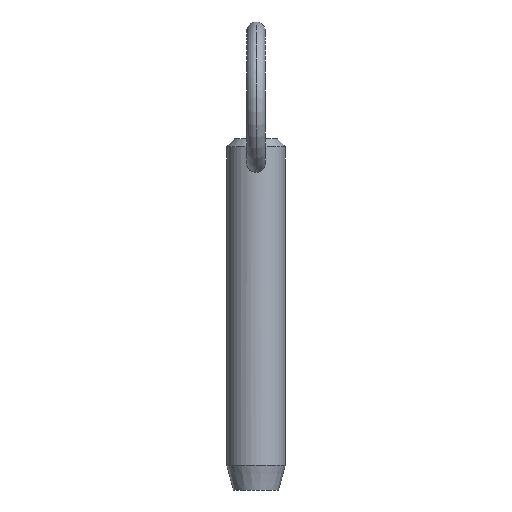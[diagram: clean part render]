
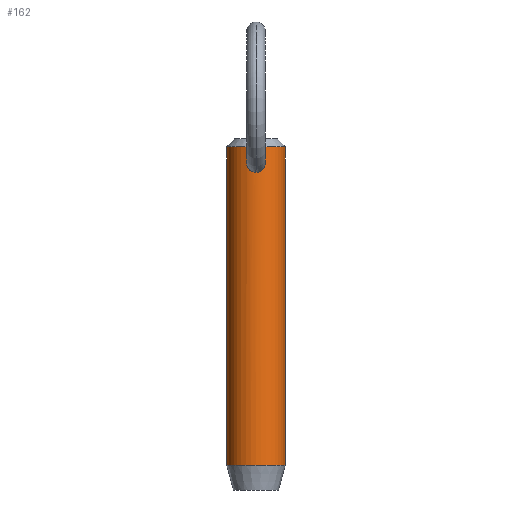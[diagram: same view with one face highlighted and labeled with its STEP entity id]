
A CAD part, front view. The second image highlights one B-rep face of the part: STEP entity #162.
In plain terms, the highlighted cylindrical face has radius 4.76 mm (diameter 9.52 mm), a partial arc.
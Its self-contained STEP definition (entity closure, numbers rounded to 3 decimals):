
#4 = DIRECTION ( 'NONE',  ( 1., 0., 0. ) ) ;
#7 = CYLINDRICAL_SURFACE ( 'NONE', #438, 4.76 ) ;
#8 = CARTESIAN_POINT ( 'NONE',  ( -0.932, -4.67, 41.945 ) ) ;
#14 = VECTOR ( 'NONE', #52, 1000. ) ;
#24 = CARTESIAN_POINT ( 'NONE',  ( 0.104, -4.76, 42.348 ) ) ;
#27 = CARTESIAN_POINT ( 'NONE',  ( 1.19, -4.611, 41.624 ) ) ;
#31 = CARTESIAN_POINT ( 'NONE',  ( 0.512, -4.733, 39.108 ) ) ;
#39 = CARTESIAN_POINT ( 'NONE',  ( 0., 0., 43.15 ) ) ;
#41 = CARTESIAN_POINT ( 'NONE',  ( -1.19, -4.611, 41.624 ) ) ;
#44 = CARTESIAN_POINT ( 'NONE',  ( 4.76, 0., 38.1 ) ) ;
#45 = CARTESIAN_POINT ( 'NONE',  ( -0.208, -4.757, 42.334 ) ) ;
#50 = ORIENTED_EDGE ( 'NONE', *, *, #75, .F. ) ;
#52 = DIRECTION ( 'NONE',  ( 0., 0., -1. ) ) ;
#60 = EDGE_CURVE ( 'NONE', #251, #179, #527, .T. ) ;
#61 = CARTESIAN_POINT ( 'NONE',  ( 1.404, -4.548, 41.153 ) ) ;
#65 = CARTESIAN_POINT ( 'NONE',  ( -4.76, 0., -8.7 ) ) ;
#66 = CARTESIAN_POINT ( 'NONE',  ( 1.478, -4.525, 40.852 ) ) ;
#70 = CARTESIAN_POINT ( 'NONE',  ( 0.409, -4.743, 42.278 ) ) ;
#72 = CARTESIAN_POINT ( 'NONE',  ( 1.385, -4.554, 39.932 ) ) ;
#75 = EDGE_CURVE ( 'NONE', #251, #491, #340, .T. ) ;
#77 = CARTESIAN_POINT ( 'NONE',  ( -1.483, -4.524, 40.226 ) ) ;
#86 = LINE ( 'NONE', #129, #14 ) ;
#103 = CARTESIAN_POINT ( 'NONE',  ( 0.209, -4.756, 42.334 ) ) ;
#108 = CARTESIAN_POINT ( 'NONE',  ( 0.506, -4.734, 42.237 ) ) ;
#110 = CARTESIAN_POINT ( 'NONE',  ( 0.97, -4.662, 39.35 ) ) ;
#111 = CARTESIAN_POINT ( 'NONE',  ( -0.21, -4.76, 39.026 ) ) ;
#113 = CARTESIAN_POINT ( 'NONE',  ( 0., -4.76, 39.026 ) ) ;
#125 = CARTESIAN_POINT ( 'NONE',  ( -0.777, -4.7, 42.085 ) ) ;
#129 = CARTESIAN_POINT ( 'NONE',  ( -4.76, 0., 38.1 ) ) ;
#135 = AXIS2_PLACEMENT_3D ( 'NONE', #39, #499, #4 ) ;
#138 = CARTESIAN_POINT ( 'NONE',  ( 0., 0., 38.1 ) ) ;
#149 = CARTESIAN_POINT ( 'NONE',  ( 0.77, -4.698, 42.075 ) ) ;
#151 = CARTESIAN_POINT ( 'NONE',  ( 1.45, -4.534, 40.128 ) ) ;
#152 = ORIENTED_EDGE ( 'NONE', *, *, #373, .T. ) ;
#153 = CARTESIAN_POINT ( 'NONE',  ( -0.703, -4.709, 39.189 ) ) ;
#162 = ADVANCED_FACE ( 'NONE', ( #475, #326 ), #7, .T. ) ;
#164 = CARTESIAN_POINT ( 'NONE',  ( -1.292, -4.582, 41.445 ) ) ;
#165 = ORIENTED_EDGE ( 'NONE', *, *, #344, .T. ) ;
#168 = CARTESIAN_POINT ( 'NONE',  ( -0.409, -4.743, 42.278 ) ) ;
#171 = CARTESIAN_POINT ( 'NONE',  ( 0., -4.76, 42.348 ) ) ;
#175 = CARTESIAN_POINT ( 'NONE',  ( 0., 0., -8.7 ) ) ;
#179 = VERTEX_POINT ( 'NONE', #425 ) ;
#181 = CARTESIAN_POINT ( 'NONE',  ( 4.76, 0., 43.15 ) ) ;
#190 = CARTESIAN_POINT ( 'NONE',  ( 1.492, -4.52, 40.748 ) ) ;
#196 = CARTESIAN_POINT ( 'NONE',  ( 1.24, -4.596, 39.66 ) ) ;
#204 = CARTESIAN_POINT ( 'NONE',  ( -1.508, -4.515, 40.437 ) ) ;
#224 = B_SPLINE_CURVE_WITH_KNOTS ( 'NONE', 3,
 ( #171, #24, #103, #70, #108, #354, #149, #230, #518, #27, #305, #61, #263, #66, #190, #395, #361, #484, #151, #72, #357, #196, #272, #110, #399, #31, #440, #232, #519, #310 ),
 .UNSPECIFIED., .F., .F.,
 ( 4, 2, 2, 2, 2, 2, 2, 2, 2, 2, 2, 2, 2, 2, 4 ),
 ( 0.004, 0.005, 0.005, 0.005, 0.006, 0.006, 0.007, 0.007, 0.007, 0.007, 0.008, 0.008, 0.009, 0.009, 0.009 ),
 .UNSPECIFIED. ) ;
#230 = CARTESIAN_POINT ( 'NONE',  ( 0.925, -4.67, 41.939 ) ) ;
#232 = CARTESIAN_POINT ( 'NONE',  ( 0.208, -4.757, 39.036 ) ) ;
#236 = CARTESIAN_POINT ( 'NONE',  ( 0., -4.76, 42.348 ) ) ;
#237 = ORIENTED_EDGE ( 'NONE', *, *, #407, .T. ) ;
#246 = VERTEX_POINT ( 'NONE', #65 ) ;
#248 = CARTESIAN_POINT ( 'NONE',  ( -0.103, -4.76, 42.348 ) ) ;
#251 = VERTEX_POINT ( 'NONE', #181 ) ;
#263 = CARTESIAN_POINT ( 'NONE',  ( 1.434, -4.539, 41.054 ) ) ;
#272 = CARTESIAN_POINT ( 'NONE',  ( 1.178, -4.613, 39.576 ) ) ;
#273 = CARTESIAN_POINT ( 'NONE',  ( -0.793, -4.694, 39.239 ) ) ;
#282 = CARTESIAN_POINT ( 'NONE',  ( 4.76, 0., -8.7 ) ) ;
#288 = CARTESIAN_POINT ( 'NONE',  ( -1.247, -4.596, 39.652 ) ) ;
#305 = CARTESIAN_POINT ( 'NONE',  ( 1.293, -4.582, 41.442 ) ) ;
#310 = CARTESIAN_POINT ( 'NONE',  ( 0., -4.76, 39.026 ) ) ;
#311 = CARTESIAN_POINT ( 'NONE',  ( -0.961, -4.663, 39.357 ) ) ;
#322 = CARTESIAN_POINT ( 'NONE',  ( -1.353, -4.564, 39.835 ) ) ;
#324 = DIRECTION ( 'NONE',  ( 0., 0., -1. ) ) ;
#326 = FACE_BOUND ( 'NONE', #409, .T. ) ;
#333 = CARTESIAN_POINT ( 'NONE',  ( 0., -4.76, 39.026 ) ) ;
#340 = LINE ( 'NONE', #44, #510 ) ;
#344 = EDGE_CURVE ( 'NONE', #426, #384, #224, .T. ) ;
#345 = B_SPLINE_CURVE_WITH_KNOTS ( 'NONE', 3,
 ( #333, #111, #400, #153, #273, #311, #488, #288, #322, #77, #204, #372, #368, #164, #41, #8, #125, #413, #168, #45, #248, #457 ),
 .UNSPECIFIED., .F., .F.,
 ( 4, 2, 2, 2, 2, 2, 2, 2, 2, 2, 4 ),
 ( 0.009, 0.01, 0.01, 0.011, 0.011, 0.012, 0.012, 0.013, 0.014, 0.014, 0.014 ),
 .UNSPECIFIED. ) ;
#352 = ORIENTED_EDGE ( 'NONE', *, *, #60, .T. ) ;
#354 = CARTESIAN_POINT ( 'NONE',  ( 0.687, -4.711, 42.135 ) ) ;
#357 = CARTESIAN_POINT ( 'NONE',  ( 1.344, -4.567, 39.839 ) ) ;
#361 = CARTESIAN_POINT ( 'NONE',  ( 1.499, -4.518, 40.437 ) ) ;
#368 = CARTESIAN_POINT ( 'NONE',  ( -1.441, -4.537, 41.057 ) ) ;
#372 = CARTESIAN_POINT ( 'NONE',  ( -1.487, -4.522, 40.853 ) ) ;
#373 = EDGE_CURVE ( 'NONE', #246, #491, #486, .T. ) ;
#380 = EDGE_CURVE ( 'NONE', #179, #246, #86, .T. ) ;
#384 = VERTEX_POINT ( 'NONE', #113 ) ;
#395 = CARTESIAN_POINT ( 'NONE',  ( 1.503, -4.517, 40.54 ) ) ;
#399 = CARTESIAN_POINT ( 'NONE',  ( 0.797, -4.697, 39.229 ) ) ;
#400 = CARTESIAN_POINT ( 'NONE',  ( -0.416, -4.746, 39.067 ) ) ;
#407 = EDGE_CURVE ( 'NONE', #384, #426, #345, .T. ) ;
#409 = EDGE_LOOP ( 'NONE', ( #165, #237 ) ) ;
#413 = CARTESIAN_POINT ( 'NONE',  ( -0.504, -4.734, 42.238 ) ) ;
#425 = CARTESIAN_POINT ( 'NONE',  ( -4.76, 0., 43.15 ) ) ;
#426 = VERTEX_POINT ( 'NONE', #236 ) ;
#428 = DIRECTION ( 'NONE',  ( 0., 0., -1. ) ) ;
#438 = AXIS2_PLACEMENT_3D ( 'NONE', #138, #428, #505 ) ;
#440 = CARTESIAN_POINT ( 'NONE',  ( 0.411, -4.743, 39.077 ) ) ;
#453 = ORIENTED_EDGE ( 'NONE', *, *, #380, .T. ) ;
#457 = CARTESIAN_POINT ( 'NONE',  ( 0., -4.76, 42.348 ) ) ;
#459 = DIRECTION ( 'NONE',  ( -1., 0., 0. ) ) ;
#468 = AXIS2_PLACEMENT_3D ( 'NONE', #175, #502, #459 ) ;
#475 = FACE_OUTER_BOUND ( 'NONE', #517, .T. ) ;
#484 = CARTESIAN_POINT ( 'NONE',  ( 1.473, -4.526, 40.231 ) ) ;
#486 = CIRCLE ( 'NONE', #468, 4.76 ) ;
#488 = CARTESIAN_POINT ( 'NONE',  ( -1.039, -4.646, 39.426 ) ) ;
#491 = VERTEX_POINT ( 'NONE', #282 ) ;
#499 = DIRECTION ( 'NONE',  ( 0., 0., -1. ) ) ;
#502 = DIRECTION ( 'NONE',  ( 0., 0., 1. ) ) ;
#505 = DIRECTION ( 'NONE',  ( -1., 0., 0. ) ) ;
#510 = VECTOR ( 'NONE', #324, 1000. ) ;
#517 = EDGE_LOOP ( 'NONE', ( #50, #352, #453, #152 ) ) ;
#518 = CARTESIAN_POINT ( 'NONE',  ( 0.997, -4.655, 41.864 ) ) ;
#519 = CARTESIAN_POINT ( 'NONE',  ( 0.105, -4.76, 39.026 ) ) ;
#527 = CIRCLE ( 'NONE', #135, 4.76 ) ;
